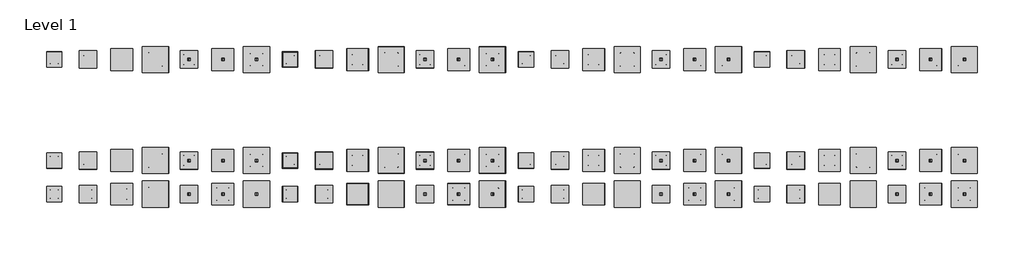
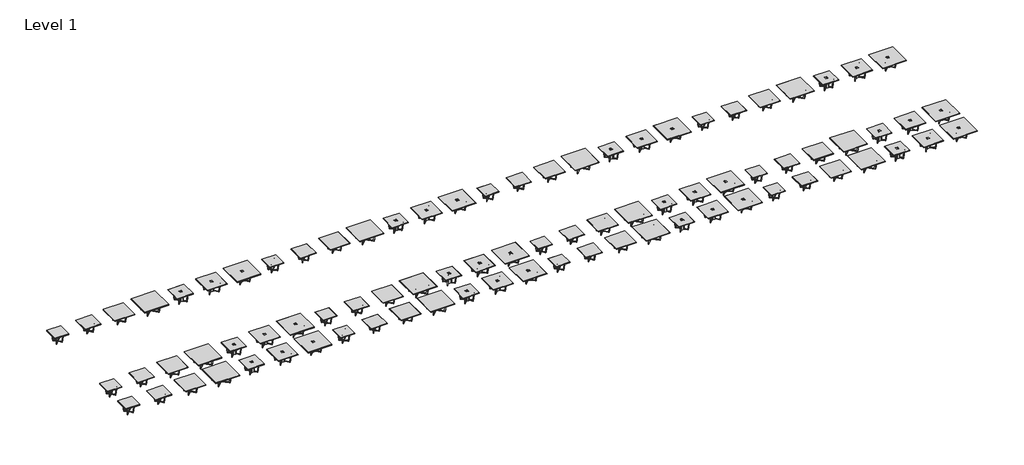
# One storey: 84 furniture elements.
"""IFC4 building model written with IfcOpenShell, lengths in millimetres."""

from ifc_helpers import new_model, si_unit, origin, place, context, project, spatial, transform, mapped, element, save
from components import furniture_b807c30e, furniture_6ba3fecd, furniture_027da457, furniture_04e91963, furniture_71493e91, furniture_c36d8510, furniture_aff1c7ed, furniture_e1e12aae, furniture_9b58214c, furniture_a8f1c13f, furniture_983f7934, furniture_89b3a7f0, furniture_0d6a90f8, furniture_2de5d6c9, furniture_42w_glass_open_2c8a6e51, furniture_42w_veneer_open_94f1aecc, furniture_48w_glass_open_f0cac7ba, furniture_48w_glass_wiremgmt_02095115, furniture_48w_veneer_open_9b99f7e2, furniture_48w_veneer_wiremgmt_23fd9e6e, furniture_60w_glass_open_36daf6b1, furniture_60w_glass_wiremgmt_495b79e9, furniture_60w_veneer_open_b4f83601, furniture_60w_veneer_wiremgmt_4f11b549, furniture_72w_glass_open_69eb700f, furniture_72w_glass_wiremgmt_d9957c21, furniture_72w_veneer_open_759ca912, furniture_72w_veneer_wiremgmt_dc4085cc

model = new_model("IFC4")

# Units and contexts
model_context = context("Model", 3, world=origin())
ifc_project = project(units=[si_unit("LENGTHUNIT", "METRE", prefix="MILLI")], contexts=[model_context])

# Site, building, storey
site = spatial("IfcSite", under=ifc_project)
building = spatial("IfcBuilding", under=site)
storey = spatial("IfcBuildingStorey", under=building, Name="Level 1", Elevation=0.0)

# Furniture
placement = place(None, origin())
furniture_shape = furniture_b807c30e(model_context)
element("IfcFurniture", 1, ObjectType="Knoll_Datesweiser_Tables_Meeting_Highline_Square : 42W Corian Open", at=placement, inside=storey, context=model_context, shape_type="MappedRepresentation", body=[
    mapped(furniture_shape, transform((36959.3228253, -495.5322825, 0.0), x_axis=(1.0, 0.0, 0.0), y_axis=(0.0, 1.0, 0.0), z_axis=(0.0, 0.0, 1.0))),
])
element("IfcFurniture", 2, ObjectType="Knoll_Datesweiser_Tables_Meeting_Highline_Square : 42W Corian Open", at=placement, inside=storey, context=model_context, shape_type="MappedRepresentation", body=[
    mapped(furniture_shape, transform((36959.3228253, -7582.5968476, 0.0), x_axis=(1.0, 0.0, 0.0), y_axis=(0.0, 1.0, 0.0), z_axis=(0.0, 0.0, 1.0))),
])
element("IfcFurniture", 3, ObjectType="Knoll_Datesweiser_Tables_Meeting_Highline_Square : 42W Corian Open", at=placement, inside=storey, context=model_context, shape_type="MappedRepresentation", body=[
    mapped(furniture_shape, transform((36959.3228253, -9944.9517026, 0.0), x_axis=(1.0, 0.0, 0.0), y_axis=(0.0, 1.0, 0.0), z_axis=(0.0, 0.0, 1.0))),
])
furniture_2_shape = furniture_6ba3fecd(model_context)
element("IfcFurniture", 4, ObjectType="Knoll_Datesweiser_Tables_Meeting_Highline_Square : 48W Corian Open", at=placement, inside=storey, context=model_context, shape_type="MappedRepresentation", body=[
    mapped(furniture_2_shape, transform((39321.6776804, -495.5322825, 0.0), x_axis=(1.0, 0.0, 0.0), y_axis=(0.0, 1.0, 0.0), z_axis=(0.0, 0.0, 1.0))),
])
element("IfcFurniture", 5, ObjectType="Knoll_Datesweiser_Tables_Meeting_Highline_Square : 48W Corian Open", at=placement, inside=storey, context=model_context, shape_type="MappedRepresentation", body=[
    mapped(furniture_2_shape, transform((39321.6776804, -7582.5968476, 0.0), x_axis=(1.0, 0.0, 0.0), y_axis=(0.0, 1.0, 0.0), z_axis=(0.0, 0.0, 1.0))),
])
element("IfcFurniture", 6, ObjectType="Knoll_Datesweiser_Tables_Meeting_Highline_Square : 48W Corian Open", at=placement, inside=storey, context=model_context, shape_type="MappedRepresentation", body=[
    mapped(furniture_2_shape, transform((39321.6776804, -9944.9517026, 0.0), x_axis=(1.0, 0.0, 0.0), y_axis=(0.0, 1.0, 0.0), z_axis=(0.0, 0.0, 1.0))),
])
furniture_3_shape = furniture_027da457(model_context)
element("IfcFurniture", 7, ObjectType="Knoll_Datesweiser_Tables_Meeting_Highline_Square : 60W Corian Open", at=placement, inside=storey, context=model_context, shape_type="MappedRepresentation", body=[
    mapped(furniture_3_shape, transform((41684.0325354, -495.5322825, 0.0), x_axis=(1.0, 0.0, 0.0), y_axis=(0.0, 1.0, 0.0), z_axis=(0.0, 0.0, 1.0))),
])
element("IfcFurniture", 8, ObjectType="Knoll_Datesweiser_Tables_Meeting_Highline_Square : 60W Corian Open", at=placement, inside=storey, context=model_context, shape_type="MappedRepresentation", body=[
    mapped(furniture_3_shape, transform((41684.0325354, -7582.5968476, 0.0), x_axis=(1.0, 0.0, 0.0), y_axis=(0.0, 1.0, 0.0), z_axis=(0.0, 0.0, 1.0))),
])
element("IfcFurniture", 9, ObjectType="Knoll_Datesweiser_Tables_Meeting_Highline_Square : 60W Corian Open", at=placement, inside=storey, context=model_context, shape_type="MappedRepresentation", body=[
    mapped(furniture_3_shape, transform((41684.0325354, -9944.9517026, 0.0), x_axis=(1.0, 0.0, 0.0), y_axis=(0.0, 1.0, 0.0), z_axis=(0.0, 0.0, 1.0))),
])
furniture_4_shape = furniture_04e91963(model_context)
element("IfcFurniture", 10, ObjectType="Knoll_Datesweiser_Tables_Meeting_Highline_Square : 72W Corian Open", at=placement, inside=storey, context=model_context, shape_type="MappedRepresentation", body=[
    mapped(furniture_4_shape, transform((44046.3873904, -495.5322825, 0.0), x_axis=(1.0, 0.0, 0.0), y_axis=(0.0, 1.0, 0.0), z_axis=(0.0, 0.0, 1.0))),
])
element("IfcFurniture", 11, ObjectType="Knoll_Datesweiser_Tables_Meeting_Highline_Square : 72W Corian Open", at=placement, inside=storey, context=model_context, shape_type="MappedRepresentation", body=[
    mapped(furniture_4_shape, transform((44046.3873904, -7582.5968476, 0.0), x_axis=(1.0, 0.0, 0.0), y_axis=(0.0, 1.0, 0.0), z_axis=(0.0, 0.0, 1.0))),
])
element("IfcFurniture", 12, ObjectType="Knoll_Datesweiser_Tables_Meeting_Highline_Square : 72W Corian Open", at=placement, inside=storey, context=model_context, shape_type="MappedRepresentation", body=[
    mapped(furniture_4_shape, transform((44046.3873904, -9944.9517026, 0.0), x_axis=(1.0, 0.0, 0.0), y_axis=(0.0, 1.0, 0.0), z_axis=(0.0, 0.0, 1.0))),
])
furniture_5_shape = furniture_71493e91(model_context)
element("IfcFurniture", 13, ObjectType="Knoll_Datesweiser_Tables_Meeting_Highline_Square : 48W Corian WireMgmt", at=placement, inside=storey, context=model_context, shape_type="MappedRepresentation", body=[
    mapped(furniture_5_shape, transform((46408.7422454, -495.5322825, 0.0), x_axis=(1.0, 0.0, 0.0), y_axis=(0.0, 1.0, 0.0), z_axis=(0.0, 0.0, 1.0))),
])
element("IfcFurniture", 14, ObjectType="Knoll_Datesweiser_Tables_Meeting_Highline_Square : 48W Corian WireMgmt", at=placement, inside=storey, context=model_context, shape_type="MappedRepresentation", body=[
    mapped(furniture_5_shape, transform((46408.7422454, -7582.5968476, 0.0), x_axis=(1.0, 0.0, 0.0), y_axis=(0.0, 1.0, 0.0), z_axis=(0.0, 0.0, 1.0))),
])
element("IfcFurniture", 15, ObjectType="Knoll_Datesweiser_Tables_Meeting_Highline_Square : 48W Corian WireMgmt", at=placement, inside=storey, context=model_context, shape_type="MappedRepresentation", body=[
    mapped(furniture_5_shape, transform((46408.7422454, -9944.9517026, 0.0), x_axis=(1.0, 0.0, 0.0), y_axis=(0.0, 1.0, 0.0), z_axis=(0.0, 0.0, 1.0))),
])
furniture_6_shape = furniture_c36d8510(model_context)
element("IfcFurniture", 16, ObjectType="Knoll_Datesweiser_Tables_Meeting_Highline_Square : 60W Corian WireMgmt", at=placement, inside=storey, context=model_context, shape_type="MappedRepresentation", body=[
    mapped(furniture_6_shape, transform((48771.0971004, -495.5322825, 0.0), x_axis=(1.0, 0.0, 0.0), y_axis=(0.0, 1.0, 0.0), z_axis=(0.0, 0.0, 1.0))),
])
element("IfcFurniture", 17, ObjectType="Knoll_Datesweiser_Tables_Meeting_Highline_Square : 60W Corian WireMgmt", at=placement, inside=storey, context=model_context, shape_type="MappedRepresentation", body=[
    mapped(furniture_6_shape, transform((48771.0971004, -7582.5968476, 0.0), x_axis=(1.0, 0.0, 0.0), y_axis=(0.0, 1.0, 0.0), z_axis=(0.0, 0.0, 1.0))),
])
element("IfcFurniture", 18, ObjectType="Knoll_Datesweiser_Tables_Meeting_Highline_Square : 60W Corian WireMgmt", at=placement, inside=storey, context=model_context, shape_type="MappedRepresentation", body=[
    mapped(furniture_6_shape, transform((48771.0971004, -9944.9517026, 0.0), x_axis=(1.0, 0.0, 0.0), y_axis=(0.0, 1.0, 0.0), z_axis=(0.0, 0.0, 1.0))),
])
furniture_7_shape = furniture_aff1c7ed(model_context)
element("IfcFurniture", 19, ObjectType="Knoll_Datesweiser_Tables_Meeting_Highline_Square : 72W Corian WireMgmt", at=placement, inside=storey, context=model_context, shape_type="MappedRepresentation", body=[
    mapped(furniture_7_shape, transform((51133.4519555, -495.5322825, 0.0), x_axis=(1.0, 0.0, 0.0), y_axis=(0.0, 1.0, 0.0), z_axis=(0.0, 0.0, 1.0))),
])
element("IfcFurniture", 20, ObjectType="Knoll_Datesweiser_Tables_Meeting_Highline_Square : 72W Corian WireMgmt", at=placement, inside=storey, context=model_context, shape_type="MappedRepresentation", body=[
    mapped(furniture_7_shape, transform((51133.4519555, -7582.5968476, 0.0), x_axis=(1.0, 0.0, 0.0), y_axis=(0.0, 1.0, 0.0), z_axis=(0.0, 0.0, 1.0))),
])
element("IfcFurniture", 21, ObjectType="Knoll_Datesweiser_Tables_Meeting_Highline_Square : 72W Corian WireMgmt", at=placement, inside=storey, context=model_context, shape_type="MappedRepresentation", body=[
    mapped(furniture_7_shape, transform((51133.4519555, -9944.9517026, 0.0), x_axis=(1.0, 0.0, 0.0), y_axis=(0.0, 1.0, 0.0), z_axis=(0.0, 0.0, 1.0))),
])
furniture_8_shape = furniture_e1e12aae(model_context)
element("IfcFurniture", 22, ObjectType="Knoll_Datesweiser_Tables_Meeting_Highline_Square : 42W Caesartone Open", at=placement, inside=storey, context=model_context, shape_type="MappedRepresentation", body=[
    mapped(furniture_8_shape, transform((53495.8068105, -495.5322825, 0.0), x_axis=(1.0, 0.0, 0.0), y_axis=(0.0, 1.0, 0.0), z_axis=(0.0, 0.0, 1.0))),
])
element("IfcFurniture", 23, ObjectType="Knoll_Datesweiser_Tables_Meeting_Highline_Square : 42W Caesartone Open", at=placement, inside=storey, context=model_context, shape_type="MappedRepresentation", body=[
    mapped(furniture_8_shape, transform((53495.8068105, -7582.5968476, 0.0), x_axis=(1.0, 0.0, 0.0), y_axis=(0.0, 1.0, 0.0), z_axis=(0.0, 0.0, 1.0))),
])
element("IfcFurniture", 24, ObjectType="Knoll_Datesweiser_Tables_Meeting_Highline_Square : 42W Caesartone Open", at=placement, inside=storey, context=model_context, shape_type="MappedRepresentation", body=[
    mapped(furniture_8_shape, transform((53495.8068105, -9944.9517026, 0.0), x_axis=(1.0, 0.0, 0.0), y_axis=(0.0, 1.0, 0.0), z_axis=(0.0, 0.0, 1.0))),
])
furniture_9_shape = furniture_9b58214c(model_context)
element("IfcFurniture", 25, ObjectType="Knoll_Datesweiser_Tables_Meeting_Highline_Square : 48W Caesartone Open", at=placement, inside=storey, context=model_context, shape_type="MappedRepresentation", body=[
    mapped(furniture_9_shape, transform((55858.1616655, -495.5322825, 0.0), x_axis=(1.0, 0.0, 0.0), y_axis=(0.0, 1.0, 0.0), z_axis=(0.0, 0.0, 1.0))),
])
element("IfcFurniture", 26, ObjectType="Knoll_Datesweiser_Tables_Meeting_Highline_Square : 48W Caesartone Open", at=placement, inside=storey, context=model_context, shape_type="MappedRepresentation", body=[
    mapped(furniture_9_shape, transform((55858.1616655, -7582.5968476, 0.0), x_axis=(1.0, 0.0, 0.0), y_axis=(0.0, 1.0, 0.0), z_axis=(0.0, 0.0, 1.0))),
])
element("IfcFurniture", 27, ObjectType="Knoll_Datesweiser_Tables_Meeting_Highline_Square : 48W Caesartone Open", at=placement, inside=storey, context=model_context, shape_type="MappedRepresentation", body=[
    mapped(furniture_9_shape, transform((55858.1616655, -9944.9517026, 0.0), x_axis=(1.0, 0.0, 0.0), y_axis=(0.0, 1.0, 0.0), z_axis=(0.0, 0.0, 1.0))),
])
furniture_10_shape = furniture_a8f1c13f(model_context)
element("IfcFurniture", 28, ObjectType="Knoll_Datesweiser_Tables_Meeting_Highline_Square : 60W Caesartone Open", at=placement, inside=storey, context=model_context, shape_type="MappedRepresentation", body=[
    mapped(furniture_10_shape, transform((58220.5165205, -495.5322825, 0.0), x_axis=(1.0, 0.0, 0.0), y_axis=(0.0, 1.0, 0.0), z_axis=(0.0, 0.0, 1.0))),
])
element("IfcFurniture", 29, ObjectType="Knoll_Datesweiser_Tables_Meeting_Highline_Square : 60W Caesartone Open", at=placement, inside=storey, context=model_context, shape_type="MappedRepresentation", body=[
    mapped(furniture_10_shape, transform((58220.5165205, -7582.5968476, 0.0), x_axis=(1.0, 0.0, 0.0), y_axis=(0.0, 1.0, 0.0), z_axis=(0.0, 0.0, 1.0))),
])
element("IfcFurniture", 30, ObjectType="Knoll_Datesweiser_Tables_Meeting_Highline_Square : 60W Caesartone Open", at=placement, inside=storey, context=model_context, shape_type="MappedRepresentation", body=[
    mapped(furniture_10_shape, transform((58220.5165205, -9944.9517026, 0.0), x_axis=(1.0, 0.0, 0.0), y_axis=(0.0, 1.0, 0.0), z_axis=(0.0, 0.0, 1.0))),
])
furniture_11_shape = furniture_983f7934(model_context)
element("IfcFurniture", 31, ObjectType="Knoll_Datesweiser_Tables_Meeting_Highline_Square : 72W Caesartone Open", at=placement, inside=storey, context=model_context, shape_type="MappedRepresentation", body=[
    mapped(furniture_11_shape, transform((60582.8713756, -495.5322825, 0.0), x_axis=(1.0, 0.0, 0.0), y_axis=(0.0, 1.0, 0.0), z_axis=(0.0, 0.0, 1.0))),
])
element("IfcFurniture", 32, ObjectType="Knoll_Datesweiser_Tables_Meeting_Highline_Square : 72W Caesartone Open", at=placement, inside=storey, context=model_context, shape_type="MappedRepresentation", body=[
    mapped(furniture_11_shape, transform((60582.8713756, -7582.5968476, 0.0), x_axis=(1.0, 0.0, 0.0), y_axis=(0.0, 1.0, 0.0), z_axis=(0.0, 0.0, 1.0))),
])
element("IfcFurniture", 33, ObjectType="Knoll_Datesweiser_Tables_Meeting_Highline_Square : 72W Caesartone Open", at=placement, inside=storey, context=model_context, shape_type="MappedRepresentation", body=[
    mapped(furniture_11_shape, transform((60582.8713756, -9944.9517026, 0.0), x_axis=(1.0, 0.0, 0.0), y_axis=(0.0, 1.0, 0.0), z_axis=(0.0, 0.0, 1.0))),
])
furniture_12_shape = furniture_89b3a7f0(model_context)
element("IfcFurniture", 34, ObjectType="Knoll_Datesweiser_Tables_Meeting_Highline_Square : 48W Caesartone WireMgmt", at=placement, inside=storey, context=model_context, shape_type="MappedRepresentation", body=[
    mapped(furniture_12_shape, transform((62945.2262306, -495.5322825, 0.0), x_axis=(1.0, 0.0, 0.0), y_axis=(0.0, 1.0, 0.0), z_axis=(0.0, 0.0, 1.0))),
])
element("IfcFurniture", 35, ObjectType="Knoll_Datesweiser_Tables_Meeting_Highline_Square : 48W Caesartone WireMgmt", at=placement, inside=storey, context=model_context, shape_type="MappedRepresentation", body=[
    mapped(furniture_12_shape, transform((62945.2262306, -7582.5968476, 0.0), x_axis=(1.0, 0.0, 0.0), y_axis=(0.0, 1.0, 0.0), z_axis=(0.0, 0.0, 1.0))),
])
element("IfcFurniture", 36, ObjectType="Knoll_Datesweiser_Tables_Meeting_Highline_Square : 48W Caesartone WireMgmt", at=placement, inside=storey, context=model_context, shape_type="MappedRepresentation", body=[
    mapped(furniture_12_shape, transform((62945.2262306, -9944.9517026, 0.0), x_axis=(1.0, 0.0, 0.0), y_axis=(0.0, 1.0, 0.0), z_axis=(0.0, 0.0, 1.0))),
])
furniture_13_shape = furniture_0d6a90f8(model_context)
element("IfcFurniture", 37, ObjectType="Knoll_Datesweiser_Tables_Meeting_Highline_Square : 60W Caesartone WireMgmt", at=placement, inside=storey, context=model_context, shape_type="MappedRepresentation", body=[
    mapped(furniture_13_shape, transform((65307.5810856, -495.5322825, 0.0), x_axis=(1.0, 0.0, 0.0), y_axis=(0.0, 1.0, 0.0), z_axis=(0.0, 0.0, 1.0))),
])
element("IfcFurniture", 38, ObjectType="Knoll_Datesweiser_Tables_Meeting_Highline_Square : 60W Caesartone WireMgmt", at=placement, inside=storey, context=model_context, shape_type="MappedRepresentation", body=[
    mapped(furniture_13_shape, transform((65307.5810856, -7582.5968476, 0.0), x_axis=(1.0, 0.0, 0.0), y_axis=(0.0, 1.0, 0.0), z_axis=(0.0, 0.0, 1.0))),
])
element("IfcFurniture", 39, ObjectType="Knoll_Datesweiser_Tables_Meeting_Highline_Square : 60W Caesartone WireMgmt", at=placement, inside=storey, context=model_context, shape_type="MappedRepresentation", body=[
    mapped(furniture_13_shape, transform((65307.5810856, -9944.9517026, 0.0), x_axis=(1.0, 0.0, 0.0), y_axis=(0.0, 1.0, 0.0), z_axis=(0.0, 0.0, 1.0))),
])
furniture_14_shape = furniture_2de5d6c9(model_context)
element("IfcFurniture", 40, ObjectType="Knoll_Datesweiser_Tables_Meeting_Highline_Square : 72W Caesartone WireMgmt", at=placement, inside=storey, context=model_context, shape_type="MappedRepresentation", body=[
    mapped(furniture_14_shape, transform((67669.9359406, -495.5322825, 0.0), x_axis=(1.0, 0.0, 0.0), y_axis=(0.0, 1.0, 0.0), z_axis=(0.0, 0.0, 1.0))),
])
element("IfcFurniture", 41, ObjectType="Knoll_Datesweiser_Tables_Meeting_Highline_Square : 72W Caesartone WireMgmt", at=placement, inside=storey, context=model_context, shape_type="MappedRepresentation", body=[
    mapped(furniture_14_shape, transform((67669.9359406, -7582.5968476, 0.0), x_axis=(1.0, 0.0, 0.0), y_axis=(0.0, 1.0, 0.0), z_axis=(0.0, 0.0, 1.0))),
])
element("IfcFurniture", 42, ObjectType="Knoll_Datesweiser_Tables_Meeting_Highline_Square : 72W Caesartone WireMgmt", at=placement, inside=storey, context=model_context, shape_type="MappedRepresentation", body=[
    mapped(furniture_14_shape, transform((67669.9359406, -9944.9517026, 0.0), x_axis=(1.0, 0.0, 0.0), y_axis=(0.0, 1.0, 0.0), z_axis=(0.0, 0.0, 1.0))),
])
furniture_42w_glass_open_shape = furniture_42w_glass_open_2c8a6e51(model_context)
element("IfcFurniture", 43, ObjectType="Knoll_Datesweiser_Tables_Meeting_Highline_Square : 42W Glass Open", at=placement, inside=storey, context=model_context, shape_type="MappedRepresentation", body=[
    mapped(furniture_42w_glass_open_shape, transform((20422.8388402, -495.5322825, 0.0), x_axis=(1.0, 0.0, 0.0), y_axis=(0.0, 1.0, 0.0), z_axis=(0.0, 0.0, 1.0))),
])
element("IfcFurniture", 44, ObjectType="Knoll_Datesweiser_Tables_Meeting_Highline_Square : 42W Glass Open", at=placement, inside=storey, context=model_context, shape_type="MappedRepresentation", body=[
    mapped(furniture_42w_glass_open_shape, transform((20422.8388402, -7582.5968476, 0.0), x_axis=(1.0, 0.0, 0.0), y_axis=(0.0, 1.0, 0.0), z_axis=(0.0, 0.0, 1.0))),
])
element("IfcFurniture", 45, ObjectType="Knoll_Datesweiser_Tables_Meeting_Highline_Square : 42W Glass Open", at=placement, inside=storey, context=model_context, shape_type="MappedRepresentation", body=[
    mapped(furniture_42w_glass_open_shape, transform((20422.8388402, -9944.9517026, 0.0), x_axis=(1.0, 0.0, 0.0), y_axis=(0.0, 1.0, 0.0), z_axis=(0.0, 0.0, 1.0))),
])
furniture_42w_veneer_open_shape = furniture_42w_veneer_open_94f1aecc(model_context)
element("IfcFurniture", 46, ObjectType="Knoll_Datesweiser_Tables_Meeting_Highline_Square : 42W Veneer Open", at=placement, inside=storey, context=model_context, shape_type="MappedRepresentation", body=[
    mapped(furniture_42w_veneer_open_shape, transform((3886.354855, -495.5322825, 0.0), x_axis=(1.0, 0.0, 0.0), y_axis=(0.0, 1.0, 0.0), z_axis=(0.0, 0.0, 1.0))),
])
element("IfcFurniture", 47, ObjectType="Knoll_Datesweiser_Tables_Meeting_Highline_Square : 42W Veneer Open", at=placement, inside=storey, context=model_context, shape_type="MappedRepresentation", body=[
    mapped(furniture_42w_veneer_open_shape, transform((3886.354855, -7582.5968476, 0.0), x_axis=(1.0, 0.0, 0.0), y_axis=(0.0, 1.0, 0.0), z_axis=(0.0, 0.0, 1.0))),
])
element("IfcFurniture", 48, ObjectType="Knoll_Datesweiser_Tables_Meeting_Highline_Square : 42W Veneer Open", at=placement, inside=storey, context=model_context, shape_type="MappedRepresentation", body=[
    mapped(furniture_42w_veneer_open_shape, transform((3886.354855, -9944.9517026, 0.0), x_axis=(1.0, 0.0, 0.0), y_axis=(0.0, 1.0, 0.0), z_axis=(0.0, 0.0, 1.0))),
])
furniture_48w_glass_open_shape = furniture_48w_glass_open_f0cac7ba(model_context)
element("IfcFurniture", 49, ObjectType="Knoll_Datesweiser_Tables_Meeting_Highline_Square : 48W Glass Open", at=placement, inside=storey, context=model_context, shape_type="MappedRepresentation", body=[
    mapped(furniture_48w_glass_open_shape, transform((22785.1936952, -495.5322825, 0.0), x_axis=(1.0, 0.0, 0.0), y_axis=(0.0, 1.0, 0.0), z_axis=(0.0, 0.0, 1.0))),
])
element("IfcFurniture", 50, ObjectType="Knoll_Datesweiser_Tables_Meeting_Highline_Square : 48W Glass Open", at=placement, inside=storey, context=model_context, shape_type="MappedRepresentation", body=[
    mapped(furniture_48w_glass_open_shape, transform((22785.1936952, -7582.5968476, 0.0), x_axis=(1.0, 0.0, 0.0), y_axis=(0.0, 1.0, 0.0), z_axis=(0.0, 0.0, 1.0))),
])
element("IfcFurniture", 51, ObjectType="Knoll_Datesweiser_Tables_Meeting_Highline_Square : 48W Glass Open", at=placement, inside=storey, context=model_context, shape_type="MappedRepresentation", body=[
    mapped(furniture_48w_glass_open_shape, transform((22785.1936952, -9944.9517026, 0.0), x_axis=(1.0, 0.0, 0.0), y_axis=(0.0, 1.0, 0.0), z_axis=(0.0, 0.0, 1.0))),
])
furniture_48w_glass_wiremgmt_shape = furniture_48w_glass_wiremgmt_02095115(model_context)
element("IfcFurniture", 52, ObjectType="Knoll_Datesweiser_Tables_Meeting_Highline_Square : 48W Glass WireMgmt", at=placement, inside=storey, context=model_context, shape_type="MappedRepresentation", body=[
    mapped(furniture_48w_glass_wiremgmt_shape, transform((29872.2582603, -495.5322825, 0.0), x_axis=(1.0, 0.0, 0.0), y_axis=(0.0, 1.0, 0.0), z_axis=(0.0, 0.0, 1.0))),
])
element("IfcFurniture", 53, ObjectType="Knoll_Datesweiser_Tables_Meeting_Highline_Square : 48W Glass WireMgmt", at=placement, inside=storey, context=model_context, shape_type="MappedRepresentation", body=[
    mapped(furniture_48w_glass_wiremgmt_shape, transform((29872.2582603, -7582.5968476, 0.0), x_axis=(1.0, 0.0, 0.0), y_axis=(0.0, 1.0, 0.0), z_axis=(0.0, 0.0, 1.0))),
])
element("IfcFurniture", 54, ObjectType="Knoll_Datesweiser_Tables_Meeting_Highline_Square : 48W Glass WireMgmt", at=placement, inside=storey, context=model_context, shape_type="MappedRepresentation", body=[
    mapped(furniture_48w_glass_wiremgmt_shape, transform((29872.2582603, -9944.9517026, 0.0), x_axis=(1.0, 0.0, 0.0), y_axis=(0.0, 1.0, 0.0), z_axis=(0.0, 0.0, 1.0))),
])
furniture_48w_veneer_open_shape = furniture_48w_veneer_open_9b99f7e2(model_context)
element("IfcFurniture", 55, ObjectType="Knoll_Datesweiser_Tables_Meeting_Highline_Square : 48W Veneer Open", at=placement, inside=storey, context=model_context, shape_type="MappedRepresentation", body=[
    mapped(furniture_48w_veneer_open_shape, transform((6248.70971, -495.5322825, 0.0), x_axis=(1.0, 0.0, 0.0), y_axis=(0.0, 1.0, 0.0), z_axis=(0.0, 0.0, 1.0))),
])
element("IfcFurniture", 56, ObjectType="Knoll_Datesweiser_Tables_Meeting_Highline_Square : 48W Veneer Open", at=placement, inside=storey, context=model_context, shape_type="MappedRepresentation", body=[
    mapped(furniture_48w_veneer_open_shape, transform((6248.70971, -7582.5968476, 0.0), x_axis=(1.0, 0.0, 0.0), y_axis=(0.0, 1.0, 0.0), z_axis=(0.0, 0.0, 1.0))),
])
element("IfcFurniture", 57, ObjectType="Knoll_Datesweiser_Tables_Meeting_Highline_Square : 48W Veneer Open", at=placement, inside=storey, context=model_context, shape_type="MappedRepresentation", body=[
    mapped(furniture_48w_veneer_open_shape, transform((6248.70971, -9944.9517026, 0.0), x_axis=(1.0, 0.0, 0.0), y_axis=(0.0, 1.0, 0.0), z_axis=(0.0, 0.0, 1.0))),
])
furniture_48w_veneer_wiremgmt_shape = furniture_48w_veneer_wiremgmt_23fd9e6e(model_context)
element("IfcFurniture", 58, ObjectType="Knoll_Datesweiser_Tables_Meeting_Highline_Square : 48W Veneer WireMgmt", at=placement, inside=storey, context=model_context, shape_type="MappedRepresentation", body=[
    mapped(furniture_48w_veneer_wiremgmt_shape, transform((13335.7742751, -495.5322825, 0.0), x_axis=(1.0, 0.0, 0.0), y_axis=(0.0, 1.0, 0.0), z_axis=(0.0, 0.0, 1.0))),
])
element("IfcFurniture", 59, ObjectType="Knoll_Datesweiser_Tables_Meeting_Highline_Square : 48W Veneer WireMgmt", at=placement, inside=storey, context=model_context, shape_type="MappedRepresentation", body=[
    mapped(furniture_48w_veneer_wiremgmt_shape, transform((13335.7742751, -7582.5968476, 0.0), x_axis=(1.0, 0.0, 0.0), y_axis=(0.0, 1.0, 0.0), z_axis=(0.0, 0.0, 1.0))),
])
element("IfcFurniture", 60, ObjectType="Knoll_Datesweiser_Tables_Meeting_Highline_Square : 48W Veneer WireMgmt", at=placement, inside=storey, context=model_context, shape_type="MappedRepresentation", body=[
    mapped(furniture_48w_veneer_wiremgmt_shape, transform((13335.7742751, -9944.9517026, 0.0), x_axis=(1.0, 0.0, 0.0), y_axis=(0.0, 1.0, 0.0), z_axis=(0.0, 0.0, 1.0))),
])
furniture_60w_glass_open_shape = furniture_60w_glass_open_36daf6b1(model_context)
element("IfcFurniture", 61, ObjectType="Knoll_Datesweiser_Tables_Meeting_Highline_Square : 60W Glass Open", at=placement, inside=storey, context=model_context, shape_type="MappedRepresentation", body=[
    mapped(furniture_60w_glass_open_shape, transform((25147.5485502, -495.5322825, 0.0), x_axis=(1.0, 0.0, 0.0), y_axis=(0.0, 1.0, 0.0), z_axis=(0.0, 0.0, 1.0))),
])
element("IfcFurniture", 62, ObjectType="Knoll_Datesweiser_Tables_Meeting_Highline_Square : 60W Glass Open", at=placement, inside=storey, context=model_context, shape_type="MappedRepresentation", body=[
    mapped(furniture_60w_glass_open_shape, transform((25147.5485502, -7582.5968476, 0.0), x_axis=(1.0, 0.0, 0.0), y_axis=(0.0, 1.0, 0.0), z_axis=(0.0, 0.0, 1.0))),
])
element("IfcFurniture", 63, ObjectType="Knoll_Datesweiser_Tables_Meeting_Highline_Square : 60W Glass Open", at=placement, inside=storey, context=model_context, shape_type="MappedRepresentation", body=[
    mapped(furniture_60w_glass_open_shape, transform((25147.5485502, -9944.9517026, 0.0), x_axis=(1.0, 0.0, 0.0), y_axis=(0.0, 1.0, 0.0), z_axis=(0.0, 0.0, 1.0))),
])
furniture_60w_glass_wiremgmt_shape = furniture_60w_glass_wiremgmt_495b79e9(model_context)
element("IfcFurniture", 64, ObjectType="Knoll_Datesweiser_Tables_Meeting_Highline_Square : 60W Glass WireMgmt", at=placement, inside=storey, context=model_context, shape_type="MappedRepresentation", body=[
    mapped(furniture_60w_glass_wiremgmt_shape, transform((32234.6131153, -495.5322825, 0.0), x_axis=(1.0, 0.0, 0.0), y_axis=(0.0, 1.0, 0.0), z_axis=(0.0, 0.0, 1.0))),
])
element("IfcFurniture", 65, ObjectType="Knoll_Datesweiser_Tables_Meeting_Highline_Square : 60W Glass WireMgmt", at=placement, inside=storey, context=model_context, shape_type="MappedRepresentation", body=[
    mapped(furniture_60w_glass_wiremgmt_shape, transform((32234.6131153, -7582.5968476, 0.0), x_axis=(1.0, 0.0, 0.0), y_axis=(0.0, 1.0, 0.0), z_axis=(0.0, 0.0, 1.0))),
])
element("IfcFurniture", 66, ObjectType="Knoll_Datesweiser_Tables_Meeting_Highline_Square : 60W Glass WireMgmt", at=placement, inside=storey, context=model_context, shape_type="MappedRepresentation", body=[
    mapped(furniture_60w_glass_wiremgmt_shape, transform((32234.6131153, -9944.9517026, 0.0), x_axis=(1.0, 0.0, 0.0), y_axis=(0.0, 1.0, 0.0), z_axis=(0.0, 0.0, 1.0))),
])
furniture_60w_veneer_open_shape = furniture_60w_veneer_open_b4f83601(model_context)
element("IfcFurniture", 67, ObjectType="Knoll_Datesweiser_Tables_Meeting_Highline_Square : 60W Veneer Open", at=placement, inside=storey, context=model_context, shape_type="MappedRepresentation", body=[
    mapped(furniture_60w_veneer_open_shape, transform((8611.0645651, -495.5322825, 0.0), x_axis=(1.0, 0.0, 0.0), y_axis=(0.0, 1.0, 0.0), z_axis=(0.0, 0.0, 1.0))),
])
element("IfcFurniture", 68, ObjectType="Knoll_Datesweiser_Tables_Meeting_Highline_Square : 60W Veneer Open", at=placement, inside=storey, context=model_context, shape_type="MappedRepresentation", body=[
    mapped(furniture_60w_veneer_open_shape, transform((8611.0645651, -7582.5968476, 0.0), x_axis=(1.0, 0.0, 0.0), y_axis=(0.0, 1.0, 0.0), z_axis=(0.0, 0.0, 1.0))),
])
element("IfcFurniture", 69, ObjectType="Knoll_Datesweiser_Tables_Meeting_Highline_Square : 60W Veneer Open", at=placement, inside=storey, context=model_context, shape_type="MappedRepresentation", body=[
    mapped(furniture_60w_veneer_open_shape, transform((8611.0645651, -9944.9517026, 0.0), x_axis=(1.0, 0.0, 0.0), y_axis=(0.0, 1.0, 0.0), z_axis=(0.0, 0.0, 1.0))),
])
furniture_60w_veneer_wiremgmt_shape = furniture_60w_veneer_wiremgmt_4f11b549(model_context)
element("IfcFurniture", 70, ObjectType="Knoll_Datesweiser_Tables_Meeting_Highline_Square : 60W Veneer WireMgmt", at=placement, inside=storey, context=model_context, shape_type="MappedRepresentation", body=[
    mapped(furniture_60w_veneer_wiremgmt_shape, transform((15698.1291301, -495.5322825, 0.0), x_axis=(1.0, 0.0, 0.0), y_axis=(0.0, 1.0, 0.0), z_axis=(0.0, 0.0, 1.0))),
])
element("IfcFurniture", 71, ObjectType="Knoll_Datesweiser_Tables_Meeting_Highline_Square : 60W Veneer WireMgmt", at=placement, inside=storey, context=model_context, shape_type="MappedRepresentation", body=[
    mapped(furniture_60w_veneer_wiremgmt_shape, transform((15698.1291301, -7582.5968476, 0.0), x_axis=(1.0, 0.0, 0.0), y_axis=(0.0, 1.0, 0.0), z_axis=(0.0, 0.0, 1.0))),
])
element("IfcFurniture", 72, ObjectType="Knoll_Datesweiser_Tables_Meeting_Highline_Square : 60W Veneer WireMgmt", at=placement, inside=storey, context=model_context, shape_type="MappedRepresentation", body=[
    mapped(furniture_60w_veneer_wiremgmt_shape, transform((15698.1291301, -9944.9517026, 0.0), x_axis=(1.0, 0.0, 0.0), y_axis=(0.0, 1.0, 0.0), z_axis=(0.0, 0.0, 1.0))),
])
furniture_72w_glass_open_shape = furniture_72w_glass_open_69eb700f(model_context)
element("IfcFurniture", 73, ObjectType="Knoll_Datesweiser_Tables_Meeting_Highline_Square : 72W Glass Open", at=placement, inside=storey, context=model_context, shape_type="MappedRepresentation", body=[
    mapped(furniture_72w_glass_open_shape, transform((27509.9034052, -495.5322825, 0.0), x_axis=(1.0, 0.0, 0.0), y_axis=(0.0, 1.0, 0.0), z_axis=(0.0, 0.0, 1.0))),
])
element("IfcFurniture", 74, ObjectType="Knoll_Datesweiser_Tables_Meeting_Highline_Square : 72W Glass Open", at=placement, inside=storey, context=model_context, shape_type="MappedRepresentation", body=[
    mapped(furniture_72w_glass_open_shape, transform((27509.9034052, -7582.5968476, 0.0), x_axis=(1.0, 0.0, 0.0), y_axis=(0.0, 1.0, 0.0), z_axis=(0.0, 0.0, 1.0))),
])
element("IfcFurniture", 75, ObjectType="Knoll_Datesweiser_Tables_Meeting_Highline_Square : 72W Glass Open", at=placement, inside=storey, context=model_context, shape_type="MappedRepresentation", body=[
    mapped(furniture_72w_glass_open_shape, transform((27509.9034052, -9944.9517026, 0.0), x_axis=(1.0, 0.0, 0.0), y_axis=(0.0, 1.0, 0.0), z_axis=(0.0, 0.0, 1.0))),
])
furniture_72w_glass_wiremgmt_shape = furniture_72w_glass_wiremgmt_d9957c21(model_context)
element("IfcFurniture", 76, ObjectType="Knoll_Datesweiser_Tables_Meeting_Highline_Square : 72W Glass WireMgmt", at=placement, inside=storey, context=model_context, shape_type="MappedRepresentation", body=[
    mapped(furniture_72w_glass_wiremgmt_shape, transform((34596.9679703, -495.5322825, 0.0), x_axis=(1.0, 0.0, 0.0), y_axis=(0.0, 1.0, 0.0), z_axis=(0.0, 0.0, 1.0))),
])
element("IfcFurniture", 77, ObjectType="Knoll_Datesweiser_Tables_Meeting_Highline_Square : 72W Glass WireMgmt", at=placement, inside=storey, context=model_context, shape_type="MappedRepresentation", body=[
    mapped(furniture_72w_glass_wiremgmt_shape, transform((34596.9679703, -7582.5968476, 0.0), x_axis=(1.0, 0.0, 0.0), y_axis=(0.0, 1.0, 0.0), z_axis=(0.0, 0.0, 1.0))),
])
element("IfcFurniture", 78, ObjectType="Knoll_Datesweiser_Tables_Meeting_Highline_Square : 72W Glass WireMgmt", at=placement, inside=storey, context=model_context, shape_type="MappedRepresentation", body=[
    mapped(furniture_72w_glass_wiremgmt_shape, transform((34596.9679703, -9944.9517026, 0.0), x_axis=(1.0, 0.0, 0.0), y_axis=(0.0, 1.0, 0.0), z_axis=(0.0, 0.0, 1.0))),
])
furniture_72w_veneer_open_shape = furniture_72w_veneer_open_759ca912(model_context)
element("IfcFurniture", 79, ObjectType="Knoll_Datesweiser_Tables_Meeting_Highline_Square : 72W Veneer Open", at=placement, inside=storey, context=model_context, shape_type="MappedRepresentation", body=[
    mapped(furniture_72w_veneer_open_shape, transform((10973.4194201, -495.5322825, 0.0), x_axis=(1.0, 0.0, 0.0), y_axis=(0.0, 1.0, 0.0), z_axis=(0.0, 0.0, 1.0))),
])
element("IfcFurniture", 80, ObjectType="Knoll_Datesweiser_Tables_Meeting_Highline_Square : 72W Veneer Open", at=placement, inside=storey, context=model_context, shape_type="MappedRepresentation", body=[
    mapped(furniture_72w_veneer_open_shape, transform((10973.4194201, -7582.5968476, 0.0), x_axis=(1.0, 0.0, 0.0), y_axis=(0.0, 1.0, 0.0), z_axis=(0.0, 0.0, 1.0))),
])
element("IfcFurniture", 81, ObjectType="Knoll_Datesweiser_Tables_Meeting_Highline_Square : 72W Veneer Open", at=placement, inside=storey, context=model_context, shape_type="MappedRepresentation", body=[
    mapped(furniture_72w_veneer_open_shape, transform((10973.4194201, -9944.9517026, 0.0), x_axis=(1.0, 0.0, 0.0), y_axis=(0.0, 1.0, 0.0), z_axis=(0.0, 0.0, 1.0))),
])
furniture_72w_veneer_wiremgmt_shape = furniture_72w_veneer_wiremgmt_dc4085cc(model_context)
element("IfcFurniture", 82, ObjectType="Knoll_Datesweiser_Tables_Meeting_Highline_Square : 72W Veneer WireMgmt", at=placement, inside=storey, context=model_context, shape_type="MappedRepresentation", body=[
    mapped(furniture_72w_veneer_wiremgmt_shape, transform((18060.4839852, -495.5322825, 0.0), x_axis=(1.0, 0.0, 0.0), y_axis=(0.0, 1.0, 0.0), z_axis=(0.0, 0.0, 1.0))),
])
element("IfcFurniture", 83, ObjectType="Knoll_Datesweiser_Tables_Meeting_Highline_Square : 72W Veneer WireMgmt", at=placement, inside=storey, context=model_context, shape_type="MappedRepresentation", body=[
    mapped(furniture_72w_veneer_wiremgmt_shape, transform((18060.4839852, -7582.5968476, 0.0), x_axis=(1.0, 0.0, 0.0), y_axis=(0.0, 1.0, 0.0), z_axis=(0.0, 0.0, 1.0))),
])
element("IfcFurniture", 84, ObjectType="Knoll_Datesweiser_Tables_Meeting_Highline_Square : 72W Veneer WireMgmt", at=placement, inside=storey, context=model_context, shape_type="MappedRepresentation", body=[
    mapped(furniture_72w_veneer_wiremgmt_shape, transform((18060.4839852, -9944.9517026, 0.0), x_axis=(1.0, 0.0, 0.0), y_axis=(0.0, 1.0, 0.0), z_axis=(0.0, 0.0, 1.0))),
])

save(model, "model.ifc")
